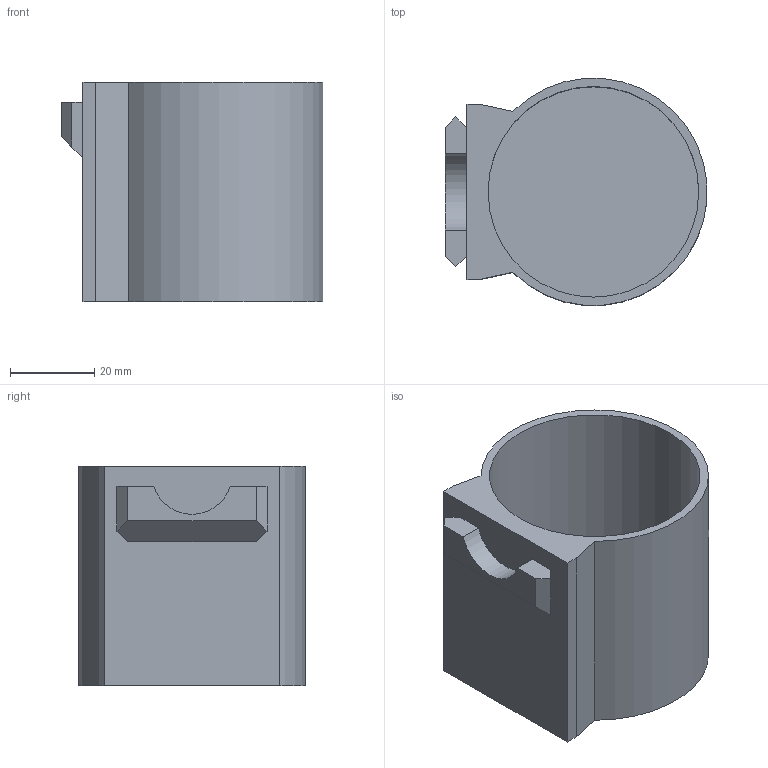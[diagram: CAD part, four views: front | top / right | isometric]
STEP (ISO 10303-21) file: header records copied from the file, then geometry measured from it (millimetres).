
FILE_DESCRIPTION(/* description */ ('','CAx-IF Rec.Pracs.---Representation and Presentation of Product Manufacturing Information (PMI)---4.0---2014-10-13'),/* implementation_level */ '2;1');
FILE_NAME(/* name */ 'Goews Single 1x Hanging Cup 50mm D x 50mm H.step',/* time_stamp */ '2024-12-16T19:14:11-05:00',/* author */ (''),/* organization */ (''),/* preprocessor_version */ 'ST-DEVELOPER v20',/* originating_system */ 'Autodesk Translation Framework v13.20.0.188',/* authorisation */ '');
FILE_SCHEMA (('AP242_MANAGED_MODEL_BASED_3D_ENGINEERING_MIM_LF { 1 0 10303 442 1 1 4 }'));
Length unit declared in the file: millimetre
Products named in the file (1): Goews Single 1x Hanging Cup parametric
Bounding box: 62.05 x 53.79 x 52 mm (x, y, z)
Volume: 34359.4 mm3; surface area: 23272.5 mm2
Topology: 1 solids, 1 shells, 22 faces, 52 edges, 34 vertices
Faces by surface type: plane 19, cylinder 3
Full cylindrical faces by diameter (mm): 50 x1
Entity records: 659 total; most frequent: CARTESIAN_POINT 109, ORIENTED_EDGE 104, DIRECTION 104, EDGE_CURVE 52, LINE 46, VECTOR 46, VERTEX_POINT 34, AXIS2_PLACEMENT_3D 29
